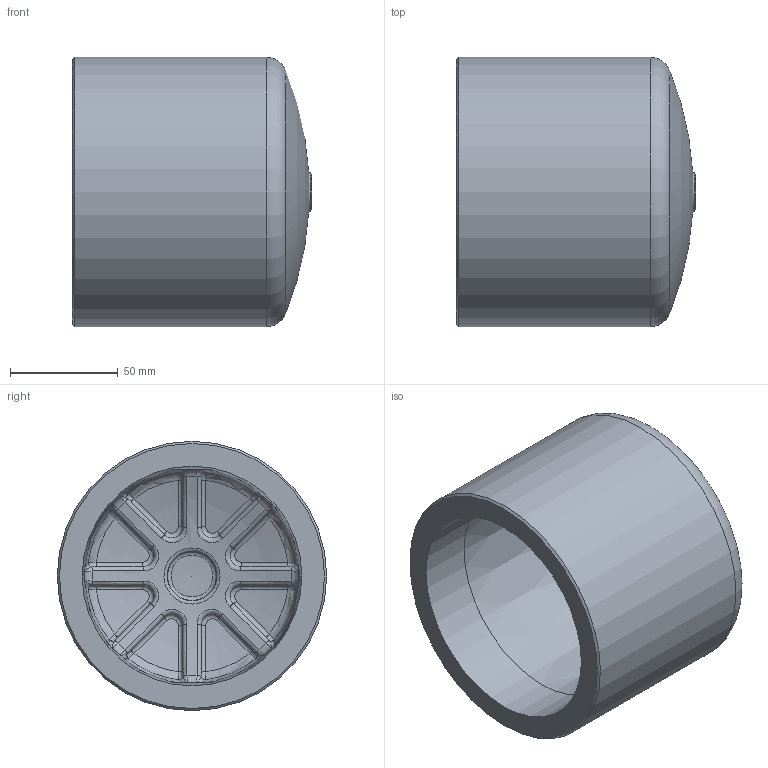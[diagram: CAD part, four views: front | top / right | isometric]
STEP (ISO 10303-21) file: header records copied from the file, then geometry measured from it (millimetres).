
FILE_DESCRIPTION(/* description */ ('Unknown'),/* implementation_level */ '2;1');
FILE_NAME(/* name */ 'CAP125C',/* time_stamp */ '2021-02-04T09:42:05+01:00',/* author */ ('Unknown'),/* organization */ ('Unknown'),/* preprocessor_version */ 'ST-DEVELOPER v16.7',/* originating_system */ 'Solid Edge',/* authorisation */ 'Unknown');
FILE_SCHEMA (('AUTOMOTIVE_DESIGN {1 0 10303 214 3 1 1}'));
Length unit declared in the file: millimetre
Products named in the file (1): CAP125C
Bounding box: 111 x 125 x 125 mm (x, y, z)
Volume: 519370.6 mm3; surface area: 90847.4 mm2
Topology: 1 solids, 1 shells, 199 faces, 475 edges, 261 vertices
Faces by surface type: bspline 144, torus 35, sphere 12, cone 4, cylinder 3, plane 1
Full cylindrical faces by diameter (mm): 100.2 x1, 102 x1, 125 x1
Entity records: 7170 total; most frequent: CARTESIAN_POINT 3722, ORIENTED_EDGE 874, DIRECTION 490, EDGE_CURVE 437, VERTEX_POINT 253, B_SPLINE_CURVE_WITH_KNOTS 248, AXIS2_PLACEMENT_3D 245, EDGE_LOOP 212
